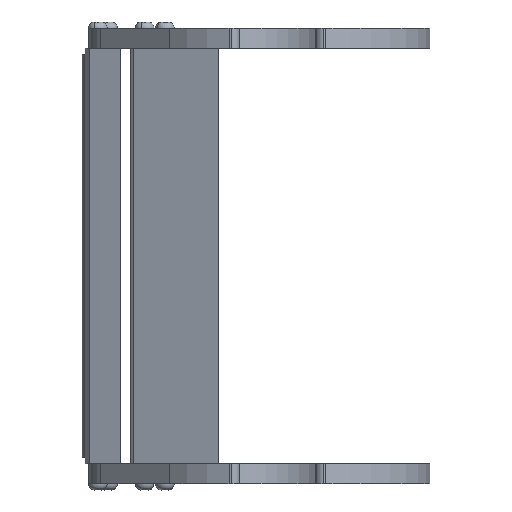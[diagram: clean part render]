
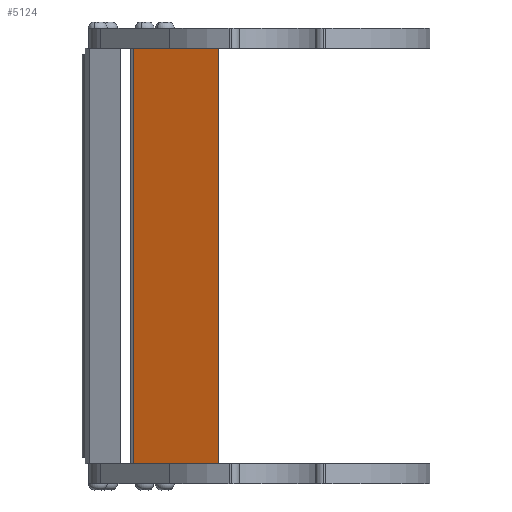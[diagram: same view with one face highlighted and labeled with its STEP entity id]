
A CAD part, left-side view. The second image highlights one B-rep face of the part: STEP entity #5124.
In plain terms, the highlighted planar face has unit normal (-0.941, 0.34, 0) as drawn and (0.342, -0.94, 0) by its records, which use the part's own axes.
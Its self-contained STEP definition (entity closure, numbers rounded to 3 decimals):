
#13 = VECTOR ( 'NONE', #7469, 1000. ) ;
#973 = DIRECTION ( 'NONE',  ( -0.94, -0.342, 0. ) ) ;
#1026 = DIRECTION ( 'NONE',  ( 0.94, 0.342, 0. ) ) ;
#1836 = CARTESIAN_POINT ( 'NONE',  ( 1.655, 0., 163. ) ) ;
#1924 = ORIENTED_EDGE ( 'NONE', *, *, #2616, .F. ) ;
#2110 = PLANE ( 'NONE',  #2606 ) ;
#2432 = EDGE_LOOP ( 'NONE', ( #11639, #5010, #1924, #5631 ) ) ;
#2606 = AXIS2_PLACEMENT_3D ( 'NONE', #11540, #6594, #973 ) ;
#2616 = EDGE_CURVE ( 'NONE', #9125, #4616, #4776, .T. ) ;
#2870 = DIRECTION ( 'NONE',  ( 0., 0., -1. ) ) ;
#3117 = CARTESIAN_POINT ( 'NONE',  ( 1.655, 0., 163. ) ) ;
#3648 = LINE ( 'NONE', #9274, #13 ) ;
#3752 = CARTESIAN_POINT ( 'NONE',  ( 35., 12.137, 0. ) ) ;
#4203 = VECTOR ( 'NONE', #11142, 1000. ) ;
#4616 = VERTEX_POINT ( 'NONE', #10248 ) ;
#4776 = LINE ( 'NONE', #1836, #11439 ) ;
#5010 = ORIENTED_EDGE ( 'NONE', *, *, #5556, .F. ) ;
#5124 = ADVANCED_FACE ( 'NONE', ( #9477 ), #2110, .F. ) ;
#5504 = EDGE_CURVE ( 'NONE', #10043, #9468, #3648, .T. ) ;
#5556 = EDGE_CURVE ( 'NONE', #4616, #9468, #7344, .T. ) ;
#5631 = ORIENTED_EDGE ( 'NONE', *, *, #8277, .T. ) ;
#5676 = CARTESIAN_POINT ( 'NONE',  ( 1.655, 0., 0. ) ) ;
#6594 = DIRECTION ( 'NONE',  ( -0.342, 0.94, 0. ) ) ;
#7344 = LINE ( 'NONE', #8333, #4203 ) ;
#7469 = DIRECTION ( 'NONE',  ( 0.94, 0.342, 0. ) ) ;
#8277 = EDGE_CURVE ( 'NONE', #9125, #10043, #11317, .T. ) ;
#8333 = CARTESIAN_POINT ( 'NONE',  ( 35., 12.137, 163. ) ) ;
#9125 = VERTEX_POINT ( 'NONE', #9519 ) ;
#9274 = CARTESIAN_POINT ( 'NONE',  ( 35., 12.137, 0. ) ) ;
#9468 = VERTEX_POINT ( 'NONE', #3752 ) ;
#9477 = FACE_OUTER_BOUND ( 'NONE', #2432, .T. ) ;
#9519 = CARTESIAN_POINT ( 'NONE',  ( 1.655, 0., 163. ) ) ;
#10043 = VERTEX_POINT ( 'NONE', #5676 ) ;
#10248 = CARTESIAN_POINT ( 'NONE',  ( 35., 12.137, 163. ) ) ;
#10408 = VECTOR ( 'NONE', #2870, 1000. ) ;
#11142 = DIRECTION ( 'NONE',  ( 0., 0., -1. ) ) ;
#11317 = LINE ( 'NONE', #3117, #10408 ) ;
#11439 = VECTOR ( 'NONE', #1026, 1000. ) ;
#11540 = CARTESIAN_POINT ( 'NONE',  ( 35., 12.137, 163. ) ) ;
#11639 = ORIENTED_EDGE ( 'NONE', *, *, #5504, .T. ) ;
